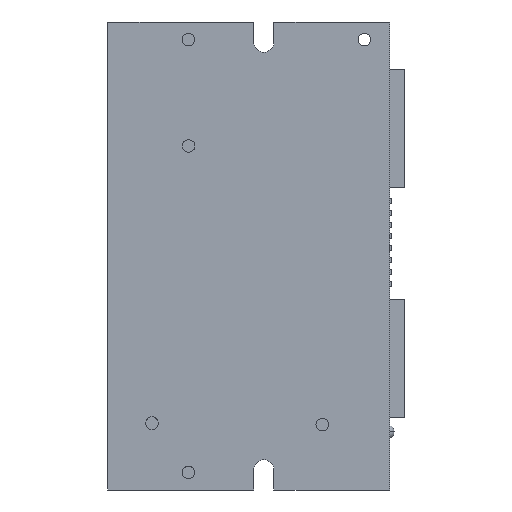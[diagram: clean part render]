
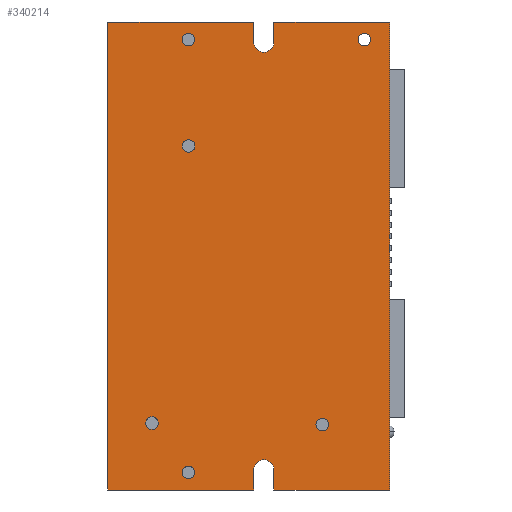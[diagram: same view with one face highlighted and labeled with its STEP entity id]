
A CAD part, front view. The second image highlights one B-rep face of the part: STEP entity #340214.
In plain terms, the highlighted planar face has unit normal (0, -1, 0).
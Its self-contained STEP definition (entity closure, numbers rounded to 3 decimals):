
#77235=DIRECTION('',(1.,0.,0.));
#77236=VECTOR('',#77235,23.);
#77237=CARTESIAN_POINT('',(5.,0.,93.));
#77238=LINE('',#77237,#77236);
#77259=DIRECTION('',(1.,0.,0.));
#77260=VECTOR('',#77259,29.);
#77261=CARTESIAN_POINT('',(-28.,0.,93.));
#77262=LINE('',#77261,#77260);
#77283=CARTESIAN_POINT('',(-12.,0.,89.5));
#77284=DIRECTION('',(0.,1.,0.));
#77285=DIRECTION('',(0.,0.,-1.));
#77286=AXIS2_PLACEMENT_3D('',#77283,#77284,#77285);
#77288=CARTESIAN_POINT('',(-12.,0.,89.5));
#77289=DIRECTION('',(0.,1.,0.));
#77290=DIRECTION('',(0.,0.,1.));
#77291=AXIS2_PLACEMENT_3D('',#77288,#77289,#77290);
#77293=CARTESIAN_POINT('',(-12.,0.,3.5));
#77294=DIRECTION('',(0.,1.,0.));
#77295=DIRECTION('',(0.,0.,-1.));
#77296=AXIS2_PLACEMENT_3D('',#77293,#77294,#77295);
#77298=CARTESIAN_POINT('',(-12.,0.,3.5));
#77299=DIRECTION('',(0.,1.,0.));
#77300=DIRECTION('',(0.,0.,1.));
#77301=AXIS2_PLACEMENT_3D('',#77298,#77299,#77300);
#77303=DIRECTION('',(0.,0.,-1.));
#77304=VECTOR('',#77303,4.);
#77305=CARTESIAN_POINT('',(1.,0.,93.));
#77306=LINE('',#77305,#77304);
#77307=CARTESIAN_POINT('',(3.,0.,89.));
#77308=DIRECTION('',(0.,1.,0.));
#77309=DIRECTION('',(1.,0.,0.));
#77310=AXIS2_PLACEMENT_3D('',#77307,#77308,#77309);
#77312=DIRECTION('',(0.,0.,-1.));
#77313=VECTOR('',#77312,4.);
#77314=CARTESIAN_POINT('',(5.,0.,93.));
#77315=LINE('',#77314,#77313);
#77316=DIRECTION('',(0.,0.,1.));
#77317=VECTOR('',#77316,4.);
#77318=CARTESIAN_POINT('',(5.,0.,0.));
#77319=LINE('',#77318,#77317);
#77320=CARTESIAN_POINT('',(3.,0.,4.));
#77321=DIRECTION('',(0.,1.,0.));
#77322=DIRECTION('',(-1.,0.,0.));
#77323=AXIS2_PLACEMENT_3D('',#77320,#77321,#77322);
#77325=DIRECTION('',(0.,0.,1.));
#77326=VECTOR('',#77325,4.);
#77327=CARTESIAN_POINT('',(1.,0.,0.));
#77328=LINE('',#77327,#77326);
#77329=DIRECTION('',(0.,0.,1.));
#77330=VECTOR('',#77329,93.);
#77331=CARTESIAN_POINT('',(-28.,0.,0.));
#77332=LINE('',#77331,#77330);
#77333=CARTESIAN_POINT('',(-19.21,0.,13.29));
#77334=DIRECTION('',(0.,1.,0.));
#77335=DIRECTION('',(0.,0.,-1.));
#77336=AXIS2_PLACEMENT_3D('',#77333,#77334,#77335);
#77338=CARTESIAN_POINT('',(-19.21,0.,13.29));
#77339=DIRECTION('',(0.,1.,0.));
#77340=DIRECTION('',(0.,0.,1.));
#77341=AXIS2_PLACEMENT_3D('',#77338,#77339,#77340);
#77343=CARTESIAN_POINT('',(14.61,0.,13.));
#77344=DIRECTION('',(0.,1.,0.));
#77345=DIRECTION('',(0.,0.,-1.));
#77346=AXIS2_PLACEMENT_3D('',#77343,#77344,#77345);
#77348=CARTESIAN_POINT('',(14.61,0.,13.));
#77349=DIRECTION('',(0.,1.,0.));
#77350=DIRECTION('',(0.,0.,1.));
#77351=AXIS2_PLACEMENT_3D('',#77348,#77349,#77350);
#77353=CARTESIAN_POINT('',(-11.94,0.,68.37));
#77354=DIRECTION('',(0.,1.,0.));
#77355=DIRECTION('',(0.,0.,-1.));
#77356=AXIS2_PLACEMENT_3D('',#77353,#77354,#77355);
#77358=CARTESIAN_POINT('',(-11.94,0.,68.37));
#77359=DIRECTION('',(0.,1.,0.));
#77360=DIRECTION('',(0.,0.,1.));
#77361=AXIS2_PLACEMENT_3D('',#77358,#77359,#77360);
#77363=CARTESIAN_POINT('',(23.,0.,89.5));
#77364=DIRECTION('',(0.,1.,0.));
#77365=DIRECTION('',(0.,0.,-1.));
#77366=AXIS2_PLACEMENT_3D('',#77363,#77364,#77365);
#77368=CARTESIAN_POINT('',(23.,0.,89.5));
#77369=DIRECTION('',(0.,1.,0.));
#77370=DIRECTION('',(0.,0.,1.));
#77371=AXIS2_PLACEMENT_3D('',#77368,#77369,#77370);
#77445=DIRECTION('',(1.,0.,0.));
#77446=VECTOR('',#77445,23.);
#77447=CARTESIAN_POINT('',(5.,0.,0.));
#77448=LINE('',#77447,#77446);
#77485=DIRECTION('',(1.,0.,0.));
#77486=VECTOR('',#77485,29.);
#77487=CARTESIAN_POINT('',(-28.,0.,0.));
#77488=LINE('',#77487,#77486);
#77509=DIRECTION('',(0.,0.,1.));
#77510=VECTOR('',#77509,93.);
#77511=CARTESIAN_POINT('',(28.,0.,0.));
#77512=LINE('',#77511,#77510);
#217605=CARTESIAN_POINT('',(28.,0.,0.));
#217607=VERTEX_POINT('',#217605);
#217613=CARTESIAN_POINT('',(28.,0.,93.));
#217615=VERTEX_POINT('',#217613);
#217617=CARTESIAN_POINT('',(-28.,0.,0.));
#217618=CARTESIAN_POINT('',(-28.,0.,93.));
#217619=VERTEX_POINT('',#217617);
#217620=VERTEX_POINT('',#217618);
#217621=CARTESIAN_POINT('',(5.,0.,0.));
#217623=VERTEX_POINT('',#217621);
#217625=CARTESIAN_POINT('',(1.,0.,0.));
#217627=VERTEX_POINT('',#217625);
#217629=CARTESIAN_POINT('',(1.,0.,93.));
#217631=VERTEX_POINT('',#217629);
#217633=CARTESIAN_POINT('',(5.,0.,93.));
#217635=VERTEX_POINT('',#217633);
#217637=CARTESIAN_POINT('',(-12.,0.,88.25));
#217638=CARTESIAN_POINT('',(-12.,0.,90.75));
#217639=VERTEX_POINT('',#217637);
#217640=VERTEX_POINT('',#217638);
#217641=CARTESIAN_POINT('',(-12.,0.,2.25));
#217642=CARTESIAN_POINT('',(-12.,0.,4.75));
#217643=VERTEX_POINT('',#217641);
#217644=VERTEX_POINT('',#217642);
#217645=CARTESIAN_POINT('',(1.,0.,89.));
#217646=VERTEX_POINT('',#217645);
#217647=CARTESIAN_POINT('',(5.,0.,89.));
#217648=VERTEX_POINT('',#217647);
#217649=CARTESIAN_POINT('',(1.,0.,4.));
#217650=CARTESIAN_POINT('',(5.,0.,4.));
#217651=VERTEX_POINT('',#217649);
#217652=VERTEX_POINT('',#217650);
#217697=CARTESIAN_POINT('',(-19.21,0.,12.04));
#217698=CARTESIAN_POINT('',(-19.21,0.,14.54));
#217699=VERTEX_POINT('',#217697);
#217700=VERTEX_POINT('',#217698);
#217701=CARTESIAN_POINT('',(14.61,0.,11.75));
#217702=CARTESIAN_POINT('',(14.61,0.,14.25));
#217703=VERTEX_POINT('',#217701);
#217704=VERTEX_POINT('',#217702);
#217705=CARTESIAN_POINT('',(-11.94,0.,67.12));
#217706=CARTESIAN_POINT('',(-11.94,0.,69.62));
#217707=VERTEX_POINT('',#217705);
#217708=VERTEX_POINT('',#217706);
#217709=CARTESIAN_POINT('',(23.,0.,88.25));
#217710=CARTESIAN_POINT('',(23.,0.,90.75));
#217711=VERTEX_POINT('',#217709);
#217712=VERTEX_POINT('',#217710);
#340150=CARTESIAN_POINT('',(-28.,0.,0.));
#340151=DIRECTION('',(0.,-1.,0.));
#340152=DIRECTION('',(1.,0.,0.));
#340153=AXIS2_PLACEMENT_3D('',#340150,#340151,#340152);
#340154=PLANE('',#340153);
#340156=ORIENTED_EDGE('',*,*,#340155,.T.);
#340158=ORIENTED_EDGE('',*,*,#340157,.F.);
#340159=ORIENTED_EDGE('',*,*,#340142,.F.);
#340160=ORIENTED_EDGE('',*,*,#340082,.T.);
#340162=ORIENTED_EDGE('',*,*,#340161,.F.);
#340164=ORIENTED_EDGE('',*,*,#340163,.F.);
#340166=ORIENTED_EDGE('',*,*,#340165,.T.);
#340168=ORIENTED_EDGE('',*,*,#340167,.F.);
#340170=ORIENTED_EDGE('',*,*,#340169,.F.);
#340172=ORIENTED_EDGE('',*,*,#340171,.F.);
#340174=ORIENTED_EDGE('',*,*,#340173,.T.);
#340175=ORIENTED_EDGE('',*,*,#340110,.T.);
#340176=EDGE_LOOP('',(#340156,#340158,#340159,#340160,#340162,#340164,#340166,
#340168,#340170,#340172,#340174,#340175));
#340177=FACE_OUTER_BOUND('',#340176,.F.);
#340179=ORIENTED_EDGE('',*,*,#340178,.F.);
#340181=ORIENTED_EDGE('',*,*,#340180,.F.);
#340182=EDGE_LOOP('',(#340179,#340181));
#340183=FACE_BOUND('',#340182,.F.);
#340185=ORIENTED_EDGE('',*,*,#340184,.F.);
#340187=ORIENTED_EDGE('',*,*,#340186,.F.);
#340188=EDGE_LOOP('',(#340185,#340187));
#340189=FACE_BOUND('',#340188,.F.);
#340191=ORIENTED_EDGE('',*,*,#340190,.F.);
#340193=ORIENTED_EDGE('',*,*,#340192,.F.);
#340194=EDGE_LOOP('',(#340191,#340193));
#340195=FACE_BOUND('',#340194,.F.);
#340197=ORIENTED_EDGE('',*,*,#340196,.F.);
#340199=ORIENTED_EDGE('',*,*,#340198,.F.);
#340200=EDGE_LOOP('',(#340197,#340199));
#340201=FACE_BOUND('',#340200,.F.);
#340203=ORIENTED_EDGE('',*,*,#340202,.F.);
#340205=ORIENTED_EDGE('',*,*,#340204,.F.);
#340206=EDGE_LOOP('',(#340203,#340205));
#340207=FACE_BOUND('',#340206,.F.);
#340209=ORIENTED_EDGE('',*,*,#340208,.F.);
#340211=ORIENTED_EDGE('',*,*,#340210,.F.);
#340212=EDGE_LOOP('',(#340209,#340211));
#340213=FACE_BOUND('',#340212,.F.);
#340214=ADVANCED_FACE('',(#340177,#340183,#340189,#340195,#340201,#340207,
#340213),#340154,.T.);
#77287=CIRCLE('',#77286,1.25);
#77292=CIRCLE('',#77291,1.25);
#77297=CIRCLE('',#77296,1.25);
#77302=CIRCLE('',#77301,1.25);
#77311=CIRCLE('',#77310,2.);
#77324=CIRCLE('',#77323,2.);
#77337=CIRCLE('',#77336,1.25);
#77342=CIRCLE('',#77341,1.25);
#77347=CIRCLE('',#77346,1.25);
#77352=CIRCLE('',#77351,1.25);
#77357=CIRCLE('',#77356,1.25);
#77362=CIRCLE('',#77361,1.25);
#77367=CIRCLE('',#77366,1.25);
#77372=CIRCLE('',#77371,1.25);
#340082=EDGE_CURVE('',#217635,#217615,#77238,.T.);
#340110=EDGE_CURVE('',#217620,#217631,#77262,.T.);
#340142=EDGE_CURVE('',#217635,#217648,#77315,.T.);
#340155=EDGE_CURVE('',#217631,#217646,#77306,.T.);
#340157=EDGE_CURVE('',#217648,#217646,#77311,.T.);
#340161=EDGE_CURVE('',#217607,#217615,#77512,.T.);
#340163=EDGE_CURVE('',#217623,#217607,#77448,.T.);
#340165=EDGE_CURVE('',#217623,#217652,#77319,.T.);
#340167=EDGE_CURVE('',#217651,#217652,#77324,.T.);
#340169=EDGE_CURVE('',#217627,#217651,#77328,.T.);
#340171=EDGE_CURVE('',#217619,#217627,#77488,.T.);
#340173=EDGE_CURVE('',#217619,#217620,#77332,.T.);
#340178=EDGE_CURVE('',#217643,#217644,#77297,.T.);
#340180=EDGE_CURVE('',#217644,#217643,#77302,.T.);
#340184=EDGE_CURVE('',#217639,#217640,#77287,.T.);
#340186=EDGE_CURVE('',#217640,#217639,#77292,.T.);
#340190=EDGE_CURVE('',#217699,#217700,#77337,.T.);
#340192=EDGE_CURVE('',#217700,#217699,#77342,.T.);
#340196=EDGE_CURVE('',#217703,#217704,#77347,.T.);
#340198=EDGE_CURVE('',#217704,#217703,#77352,.T.);
#340202=EDGE_CURVE('',#217707,#217708,#77357,.T.);
#340204=EDGE_CURVE('',#217708,#217707,#77362,.T.);
#340208=EDGE_CURVE('',#217711,#217712,#77367,.T.);
#340210=EDGE_CURVE('',#217712,#217711,#77372,.T.);
